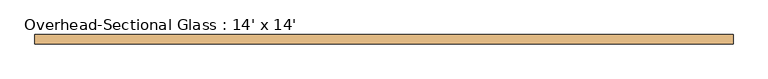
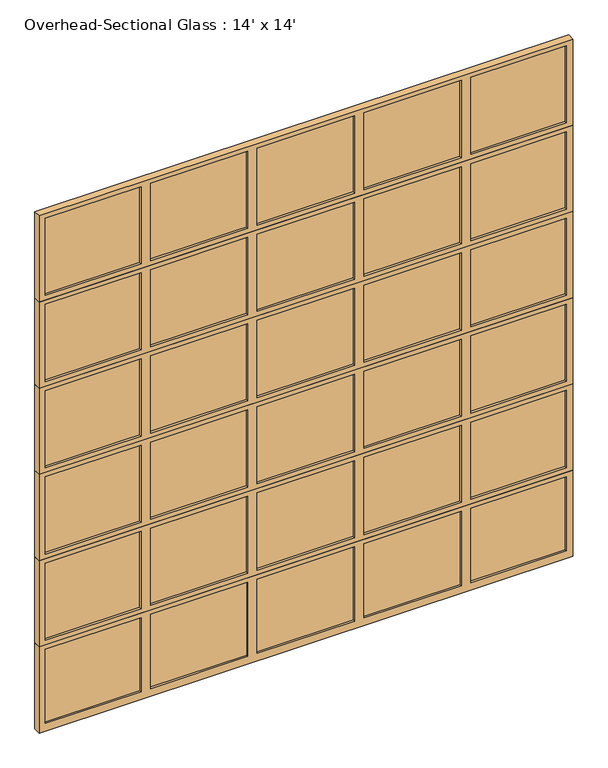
"""IFC4 building model written with IfcOpenShell, lengths in millimetres: door geometry, Overhead-Sectional Glass : 14' x 14'."""

from ifc_helpers import new_model, si_unit, frame, origin, place, context, project, spatial, polyline, outline, extrude, faceted_brep, source, transform, mapped, element, save


def overhead_sectional_glass_14_x_14_50861e5d(model_context):
    return source(origin(), model_context, "Body", "SolidModel", [
        extrude(outline(polyline([(4368.8, -2133.6), (3640.6666667, -2133.6), (3640.6666667, 2133.6), (4368.8, 2133.6), (4368.8, -2133.6)]), holes=[polyline([(3678.7666667, 2082.8), (3678.7666667, 1318.26), (4330.7, 1318.26), (4330.7, 2082.8), (3678.7666667, 2082.8)]), polyline([(3678.7666667, 1242.06), (3678.7666667, 464.82), (4330.7, 464.82), (4330.7, 1242.06), (3678.7666667, 1242.06)]), polyline([(3678.7666667, 388.62), (3678.7666667, -388.62), (4330.7, -388.62), (4330.7, 388.62), (3678.7666667, 388.62)]), polyline([(3678.7666667, -464.82), (3678.7666667, -1242.06), (4330.7, -1242.06), (4330.7, -464.82), (3678.7666667, -464.82)]), polyline([(3678.7666667, -1318.26), (3678.7666667, -2082.8), (4330.7, -2082.8), (4330.7, -1318.26), (3678.7666667, -1318.26)])]), frame((0.0, 176.2125, 0.0), z_axis=(0.0, 1.0, 0.0), x_axis=(0.0, 0.0, 1.0)), (0.0, 0.0, 1.0), 57.15),
        extrude(outline(polyline([(1318.26, 195.2625), (1318.26, 220.6625), (2082.8, 220.6625), (2082.8, 195.2625), (1318.26, 195.2625)])), frame((0.0, 0.0, 3678.7666667), z_axis=(0.0, 0.0, 1.0), x_axis=(1.0, 0.0, 0.0)), (0.0, 0.0, 1.0), 651.9333333),
        extrude(outline(polyline([(464.82, 195.2625), (464.82, 220.6625), (1242.06, 220.6625), (1242.06, 195.2625), (464.82, 195.2625)])), frame((0.0, 0.0, 3678.7666667), z_axis=(0.0, 0.0, 1.0), x_axis=(1.0, 0.0, 0.0)), (0.0, 0.0, 1.0), 651.9333333),
        extrude(outline(polyline([(-388.62, 195.2625), (-388.62, 220.6625), (388.62, 220.6625), (388.62, 195.2625), (-388.62, 195.2625)])), frame((0.0, 0.0, 3678.7666667), z_axis=(0.0, 0.0, 1.0), x_axis=(1.0, 0.0, 0.0)), (0.0, 0.0, 1.0), 651.9333333),
        extrude(outline(polyline([(-1242.06, 195.2625), (-1242.06, 220.6625), (-464.82, 220.6625), (-464.82, 195.2625), (-1242.06, 195.2625)])), frame((0.0, 0.0, 3678.7666667), z_axis=(0.0, 0.0, 1.0), x_axis=(1.0, 0.0, 0.0)), (0.0, 0.0, 1.0), 651.9333333),
        extrude(outline(polyline([(-2082.8, 195.2625), (-2082.8, 220.6625), (-1318.26, 220.6625), (-1318.26, 195.2625), (-2082.8, 195.2625)])), frame((0.0, 0.0, 3678.7666667), z_axis=(0.0, 0.0, 1.0), x_axis=(1.0, 0.0, 0.0)), (0.0, 0.0, 1.0), 651.9333333),
        extrude(outline(polyline([(3640.6666667, -2133.6), (2912.5333333, -2133.6), (2912.5333333, 2133.6), (3640.6666667, 2133.6), (3640.6666667, -2133.6)]), holes=[polyline([(2950.6333333, 2082.8), (2950.6333333, 1318.26), (3602.5666667, 1318.26), (3602.5666667, 2082.8), (2950.6333333, 2082.8)]), polyline([(2950.6333333, 1242.06), (2950.6333333, 464.82), (3602.5666667, 464.82), (3602.5666667, 1242.06), (2950.6333333, 1242.06)]), polyline([(2950.6333333, 388.62), (2950.6333333, -388.62), (3602.5666667, -388.62), (3602.5666667, 388.62), (2950.6333333, 388.62)]), polyline([(2950.6333333, -464.82), (2950.6333333, -1242.06), (3602.5666667, -1242.06), (3602.5666667, -464.82), (2950.6333333, -464.82)]), polyline([(2950.6333333, -1318.26), (2950.6333333, -2082.8), (3602.5666667, -2082.8), (3602.5666667, -1318.26), (2950.6333333, -1318.26)])]), frame((0.0, 176.2125, 0.0), z_axis=(0.0, 1.0, 0.0), x_axis=(0.0, 0.0, 1.0)), (0.0, 0.0, 1.0), 57.15),
        extrude(outline(polyline([(1318.26, 195.2625), (1318.26, 220.6625), (2082.8, 220.6625), (2082.8, 195.2625), (1318.26, 195.2625)])), frame((0.0, 0.0, 2950.6333333), z_axis=(0.0, 0.0, 1.0), x_axis=(1.0, 0.0, 0.0)), (0.0, 0.0, 1.0), 651.9333333),
        extrude(outline(polyline([(464.82, 195.2625), (464.82, 220.6625), (1242.06, 220.6625), (1242.06, 195.2625), (464.82, 195.2625)])), frame((0.0, 0.0, 2950.6333333), z_axis=(0.0, 0.0, 1.0), x_axis=(1.0, 0.0, 0.0)), (0.0, 0.0, 1.0), 651.9333333),
        extrude(outline(polyline([(-388.62, 195.2625), (-388.62, 220.6625), (388.62, 220.6625), (388.62, 195.2625), (-388.62, 195.2625)])), frame((0.0, 0.0, 2950.6333333), z_axis=(0.0, 0.0, 1.0), x_axis=(1.0, 0.0, 0.0)), (0.0, 0.0, 1.0), 651.9333333),
        extrude(outline(polyline([(-1242.06, 195.2625), (-1242.06, 220.6625), (-464.82, 220.6625), (-464.82, 195.2625), (-1242.06, 195.2625)])), frame((0.0, 0.0, 2950.6333333), z_axis=(0.0, 0.0, 1.0), x_axis=(1.0, 0.0, 0.0)), (0.0, 0.0, 1.0), 651.9333333),
        extrude(outline(polyline([(-2082.8, 195.2625), (-2082.8, 220.6625), (-1318.26, 220.6625), (-1318.26, 195.2625), (-2082.8, 195.2625)])), frame((0.0, 0.0, 2950.6333333), z_axis=(0.0, 0.0, 1.0), x_axis=(1.0, 0.0, 0.0)), (0.0, 0.0, 1.0), 651.9333333),
        extrude(outline(polyline([(2912.5333333, -2133.6), (2184.4, -2133.6), (2184.4, 2133.6), (2912.5333333, 2133.6), (2912.5333333, -2133.6)]), holes=[polyline([(2222.5, 2082.8), (2222.5, 1318.26), (2874.4333333, 1318.26), (2874.4333333, 2082.8), (2222.5, 2082.8)]), polyline([(2222.5, 1242.06), (2222.5, 464.82), (2874.4333333, 464.82), (2874.4333333, 1242.06), (2222.5, 1242.06)]), polyline([(2222.5, 388.62), (2222.5, -388.62), (2874.4333333, -388.62), (2874.4333333, 388.62), (2222.5, 388.62)]), polyline([(2222.5, -464.82), (2222.5, -1242.06), (2874.4333333, -1242.06), (2874.4333333, -464.82), (2222.5, -464.82)]), polyline([(2222.5, -1318.26), (2222.5, -2082.8), (2874.4333333, -2082.8), (2874.4333333, -1318.26), (2222.5, -1318.26)])]), frame((0.0, 176.2125, 0.0), z_axis=(0.0, 1.0, 0.0), x_axis=(0.0, 0.0, 1.0)), (0.0, 0.0, 1.0), 57.15),
        extrude(outline(polyline([(1318.26, 195.2625), (1318.26, 220.6625), (2082.8, 220.6625), (2082.8, 195.2625), (1318.26, 195.2625)])), frame((0.0, 0.0, 2222.5), z_axis=(0.0, 0.0, 1.0), x_axis=(1.0, 0.0, 0.0)), (0.0, 0.0, 1.0), 651.9333333),
        extrude(outline(polyline([(464.82, 195.2625), (464.82, 220.6625), (1242.06, 220.6625), (1242.06, 195.2625), (464.82, 195.2625)])), frame((0.0, 0.0, 2222.5), z_axis=(0.0, 0.0, 1.0), x_axis=(1.0, 0.0, 0.0)), (0.0, 0.0, 1.0), 651.9333333),
        extrude(outline(polyline([(-388.62, 195.2625), (-388.62, 220.6625), (388.62, 220.6625), (388.62, 195.2625), (-388.62, 195.2625)])), frame((0.0, 0.0, 2222.5), z_axis=(0.0, 0.0, 1.0), x_axis=(1.0, 0.0, 0.0)), (0.0, 0.0, 1.0), 651.9333333),
        extrude(outline(polyline([(-1242.06, 195.2625), (-1242.06, 220.6625), (-464.82, 220.6625), (-464.82, 195.2625), (-1242.06, 195.2625)])), frame((0.0, 0.0, 2222.5), z_axis=(0.0, 0.0, 1.0), x_axis=(1.0, 0.0, 0.0)), (0.0, 0.0, 1.0), 651.9333333),
        extrude(outline(polyline([(-2082.8, 195.2625), (-2082.8, 220.6625), (-1318.26, 220.6625), (-1318.26, 195.2625), (-2082.8, 195.2625)])), frame((0.0, 0.0, 2222.5), z_axis=(0.0, 0.0, 1.0), x_axis=(1.0, 0.0, 0.0)), (0.0, 0.0, 1.0), 651.9333333),
        extrude(outline(polyline([(2184.4, -2133.6), (1456.2666667, -2133.6), (1456.2666667, 2133.6), (2184.4, 2133.6), (2184.4, -2133.6)]), holes=[polyline([(1494.3666667, 2082.8), (1494.3666667, 1318.26), (2146.3, 1318.26), (2146.3, 2082.8), (1494.3666667, 2082.8)]), polyline([(1494.3666667, 1242.06), (1494.3666667, 464.82), (2146.3, 464.82), (2146.3, 1242.06), (1494.3666667, 1242.06)]), polyline([(1494.3666667, 388.62), (1494.3666667, -388.62), (2146.3, -388.62), (2146.3, 388.62), (1494.3666667, 388.62)]), polyline([(1494.3666667, -464.82), (1494.3666667, -1242.06), (2146.3, -1242.06), (2146.3, -464.82), (1494.3666667, -464.82)]), polyline([(1494.3666667, -1318.26), (1494.3666667, -2082.8), (2146.3, -2082.8), (2146.3, -1318.26), (1494.3666667, -1318.26)])]), frame((0.0, 176.2125, 0.0), z_axis=(0.0, 1.0, 0.0), x_axis=(0.0, 0.0, 1.0)), (0.0, 0.0, 1.0), 57.15),
        extrude(outline(polyline([(1318.26, 195.2625), (1318.26, 220.6625), (2082.8, 220.6625), (2082.8, 195.2625), (1318.26, 195.2625)])), frame((0.0, 0.0, 1494.3666667), z_axis=(0.0, 0.0, 1.0), x_axis=(1.0, 0.0, 0.0)), (0.0, 0.0, 1.0), 651.9333333),
        extrude(outline(polyline([(464.82, 195.2625), (464.82, 220.6625), (1242.06, 220.6625), (1242.06, 195.2625), (464.82, 195.2625)])), frame((0.0, 0.0, 1494.3666667), z_axis=(0.0, 0.0, 1.0), x_axis=(1.0, 0.0, 0.0)), (0.0, 0.0, 1.0), 651.9333333),
        extrude(outline(polyline([(-388.62, 195.2625), (-388.62, 220.6625), (388.62, 220.6625), (388.62, 195.2625), (-388.62, 195.2625)])), frame((0.0, 0.0, 1494.3666667), z_axis=(0.0, 0.0, 1.0), x_axis=(1.0, 0.0, 0.0)), (0.0, 0.0, 1.0), 651.9333333),
        extrude(outline(polyline([(-1242.06, 195.2625), (-1242.06, 220.6625), (-464.82, 220.6625), (-464.82, 195.2625), (-1242.06, 195.2625)])), frame((0.0, 0.0, 1494.3666667), z_axis=(0.0, 0.0, 1.0), x_axis=(1.0, 0.0, 0.0)), (0.0, 0.0, 1.0), 651.9333333),
        extrude(outline(polyline([(-2082.8, 195.2625), (-2082.8, 220.6625), (-1318.26, 220.6625), (-1318.26, 195.2625), (-2082.8, 195.2625)])), frame((0.0, 0.0, 1494.3666667), z_axis=(0.0, 0.0, 1.0), x_axis=(1.0, 0.0, 0.0)), (0.0, 0.0, 1.0), 651.9333333),
        extrude(outline(polyline([(1456.2666667, -2133.6), (728.1333333, -2133.6), (728.1333333, 2133.6), (1456.2666667, 2133.6), (1456.2666667, -2133.6)]), holes=[polyline([(766.2333333, 2082.8), (766.2333333, 1318.26), (1418.1666667, 1318.26), (1418.1666667, 2082.8), (766.2333333, 2082.8)]), polyline([(766.2333333, 1242.06), (766.2333333, 464.82), (1418.1666667, 464.82), (1418.1666667, 1242.06), (766.2333333, 1242.06)]), polyline([(766.2333333, 388.62), (766.2333333, -388.62), (1418.1666667, -388.62), (1418.1666667, 388.62), (766.2333333, 388.62)]), polyline([(766.2333333, -464.82), (766.2333333, -1242.06), (1418.1666667, -1242.06), (1418.1666667, -464.82), (766.2333333, -464.82)]), polyline([(766.2333333, -1318.26), (766.2333333, -2082.8), (1418.1666667, -2082.8), (1418.1666667, -1318.26), (766.2333333, -1318.26)])]), frame((0.0, 176.2125, 0.0), z_axis=(0.0, 1.0, 0.0), x_axis=(0.0, 0.0, 1.0)), (0.0, 0.0, 1.0), 57.15),
        extrude(outline(polyline([(1318.26, 195.2625), (1318.26, 220.6625), (2082.8, 220.6625), (2082.8, 195.2625), (1318.26, 195.2625)])), frame((0.0, 0.0, 766.2333333), z_axis=(0.0, 0.0, 1.0), x_axis=(1.0, 0.0, 0.0)), (0.0, 0.0, 1.0), 651.9333333),
        extrude(outline(polyline([(464.82, 195.2625), (464.82, 220.6625), (1242.06, 220.6625), (1242.06, 195.2625), (464.82, 195.2625)])), frame((0.0, 0.0, 766.2333333), z_axis=(0.0, 0.0, 1.0), x_axis=(1.0, 0.0, 0.0)), (0.0, 0.0, 1.0), 651.9333333),
        extrude(outline(polyline([(-388.62, 195.2625), (-388.62, 220.6625), (388.62, 220.6625), (388.62, 195.2625), (-388.62, 195.2625)])), frame((0.0, 0.0, 766.2333333), z_axis=(0.0, 0.0, 1.0), x_axis=(1.0, 0.0, 0.0)), (0.0, 0.0, 1.0), 651.9333333),
        extrude(outline(polyline([(-1242.06, 195.2625), (-1242.06, 220.6625), (-464.82, 220.6625), (-464.82, 195.2625), (-1242.06, 195.2625)])), frame((0.0, 0.0, 766.2333333), z_axis=(0.0, 0.0, 1.0), x_axis=(1.0, 0.0, 0.0)), (0.0, 0.0, 1.0), 651.9333333),
        extrude(outline(polyline([(-2082.8, 195.2625), (-2082.8, 220.6625), (-1318.26, 220.6625), (-1318.26, 195.2625), (-2082.8, 195.2625)])), frame((0.0, 0.0, 766.2333333), z_axis=(0.0, 0.0, 1.0), x_axis=(1.0, 0.0, 0.0)), (0.0, 0.0, 1.0), 651.9333333),
        faceted_brep([(-2133.6, 176.2125, 728.1333333), (2133.6, 176.2125, 728.1333333), (2133.6, 233.3625, 728.1333333), (-2133.6, 233.3625, 728.1333333), (-2133.6, 176.2125, 0.0), (-2133.6, 233.3625, 0.0), (2133.6, 233.3625, 0.0), (2133.6, 176.2125, 0.0), (2082.8, 176.2125, 63.5), (1318.26, 176.2125, 63.5), (1318.26, 176.2125, 690.0333333), (2082.8, 176.2125, 690.0333333), (1242.06, 176.2125, 63.5), (464.82, 176.2125, 63.5), (464.82, 176.2125, 690.0333333), (1242.06, 176.2125, 690.0333333), (388.62, 176.2125, 63.5), (-388.62, 176.2125, 63.5), (-388.62, 176.2125, 690.0333333), (388.62, 176.2125, 690.0333333), (-464.82, 176.2125, 63.5), (-1242.06, 176.2125, 63.5), (-1242.06, 176.2125, 690.0333333), (-464.82, 176.2125, 690.0333333), (-1318.26, 176.2125, 63.5), (-2082.8, 176.2125, 63.5), (-2082.8, 176.2125, 690.0333333), (-1318.26, 176.2125, 690.0333333), (2082.8, 192.2583452, 690.0333333), (1318.26, 192.2583452, 690.0333333), (1318.26, 192.2583452, 63.5), (2082.8, 192.2583452, 63.5), (1242.06, 192.2583452, 690.0333333), (464.82, 192.2583452, 690.0333333), (464.82, 192.2583452, 63.5), (1242.06, 192.2583452, 63.5), (388.62, 192.2583452, 690.0333333), (-388.62, 192.2583452, 690.0333333), (-388.62, 192.2583452, 63.5), (388.62, 192.2583452, 63.5), (-464.82, 192.2583452, 690.0333333), (-1242.06, 192.2583452, 690.0333333), (-1242.06, 192.2583452, 63.5), (-464.82, 192.2583452, 63.5), (-1318.26, 192.2583452, 690.0333333), (-2082.8, 192.2583452, 690.0333333), (-2082.8, 192.2583452, 63.5), (-1318.26, 192.2583452, 63.5)], [[[0, 1, 2, 3]], [[4, 5, 6, 7]], [[3, 5, 4, 0]], [[2, 6, 5, 3]], [[1, 7, 6, 2]], [[0, 4, 7, 1], [8, 9, 10, 11], [12, 13, 14, 15], [16, 17, 18, 19], [20, 21, 22, 23], [24, 25, 26, 27]], [[28, 29, 30, 31]], [[32, 33, 34, 35]], [[36, 37, 38, 39]], [[40, 41, 42, 43]], [[44, 45, 46, 47]], [[31, 8, 11, 28]], [[30, 9, 8, 31]], [[29, 10, 9, 30]], [[28, 11, 10, 29]], [[35, 12, 15, 32]], [[34, 13, 12, 35]], [[33, 14, 13, 34]], [[32, 15, 14, 33]], [[39, 16, 19, 36]], [[38, 17, 16, 39]], [[37, 18, 17, 38]], [[36, 19, 18, 37]], [[43, 20, 23, 40]], [[42, 21, 20, 43]], [[41, 22, 21, 42]], [[40, 23, 22, 41]], [[47, 24, 27, 44]], [[46, 25, 24, 47]], [[45, 26, 25, 46]], [[44, 27, 26, 45]]]),
    ])


if __name__ == "__main__":
    model = new_model("IFC4")
    model_context = context("Model", 3, world=origin())
    ifc_project = project(units=[si_unit("LENGTHUNIT", "METRE", prefix="MILLI")], contexts=[model_context])
    site = spatial("IfcSite", under=ifc_project)
    building = spatial("IfcBuilding", under=site)
    placement = place(None, origin())
    overhead_sectional_glass_14_x_14_shape = overhead_sectional_glass_14_x_14_50861e5d(model_context)
    element("IfcDoor", 1, ObjectType="Overhead-Sectional Glass : 14' x 14'", at=placement, inside=building, context=model_context, shape_type="MappedRepresentation", body=[
        mapped(overhead_sectional_glass_14_x_14_shape, transform((0.0, 0.0, 0.0), x_axis=(1.0, 0.0, 0.0), y_axis=(0.0, 1.0, 0.0), z_axis=(0.0, 0.0, 1.0))),
    ])
    save(model, "model.ifc")
